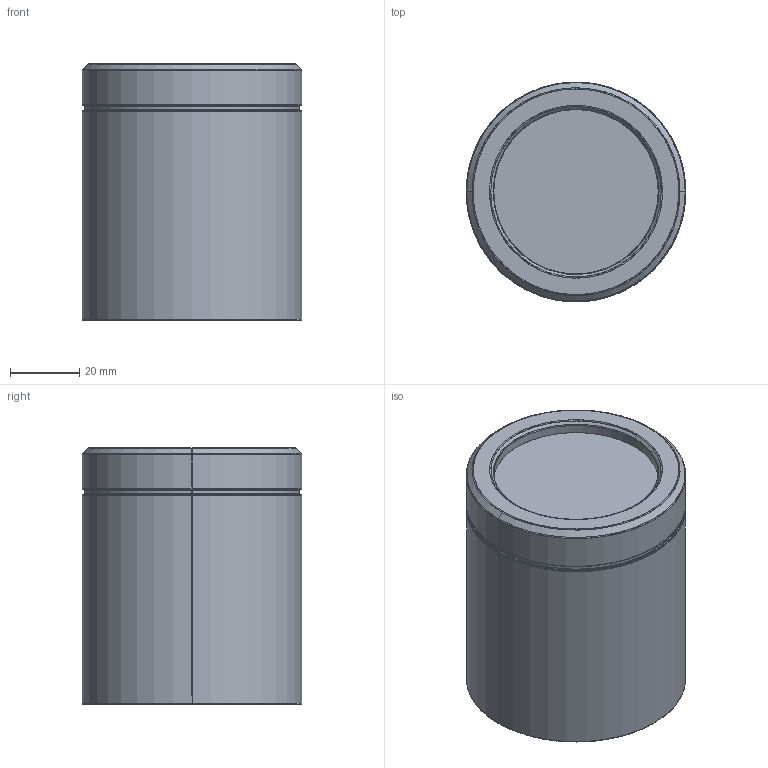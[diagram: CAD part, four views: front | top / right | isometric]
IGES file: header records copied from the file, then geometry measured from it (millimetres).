
Start section: SolidWorks IGES file using analytic representation for surfaces
Global section: file name: C:\Users\10119093\Desktop\Drawing\3D_Drawing\VC\PLM侩\权其捞瘤 档搁\权其捞瘤 档搁 颇老\喊概前\HL-74-VC.IGS; native system: SolidWorks 2018; preprocessor: SolidWorks 2018; author: 10119093; date: 210308.114501; units: millimetre
Bounding box: 63.4 x 63.4 x 74 mm (x, y, z)
Surface area: 34008.3 mm2 (no closed solid volume)
Topology: 0 solids, 0 shells, 66 faces, 1034 edges, 1034 vertices
Faces by surface type: revolution 38, bspline 28
